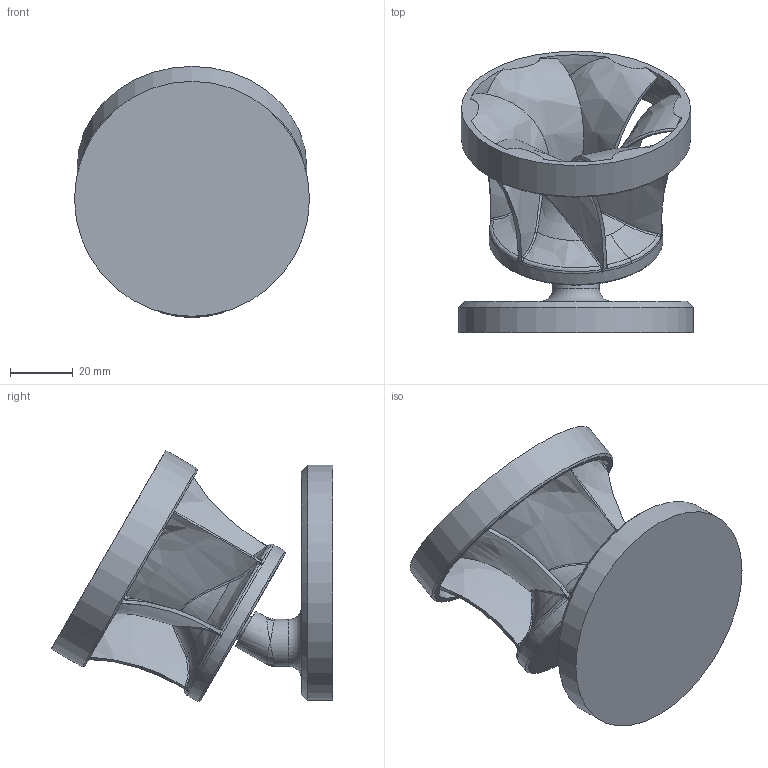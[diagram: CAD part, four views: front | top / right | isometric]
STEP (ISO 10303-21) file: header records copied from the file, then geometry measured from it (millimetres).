
FILE_DESCRIPTION(/* description */ ('','CAx-IF Rec.Pracs.---Representation and Presentation of Product Manufacturing Information (PMI)---4.0---2014-10-13'),/* implementation_level */ '2;1');
FILE_NAME(/* name */ 'Assieme_Francis.stp',/* time_stamp */ '2026-05-17T08:07:52+02:00',/* author */ ('R5800u'),/* organization */ (''),/* preprocessor_version */ 'ST-DEVELOPER v20',/* originating_system */ 'Autodesk Inventor 2025',/* authorisation */ '');
FILE_SCHEMA (('AP242_MANAGED_MODEL_BASED_3D_ENGINEERING_MIM_LF { 1 0 10303 442 1 1 4 }'));
Length unit declared in the file: millimetre
Products named in the file (4): Assieme_Francis; piedistallo_pelton; francis_3; BS 290 SKF - SKF 608-2Z
Assembly tree (3 placements, depth 2):
  Assieme_Francis
    piedistallo_pelton
    francis_3
    BS 290 SKF - SKF 608-2Z
Bounding box: 75 x 89.85 x 80.18 mm (x, y, z)
Volume: 88840.9 mm3; surface area: 43761.3 mm2
Topology: 3 solids, 3 shells, 420 faces, 1275 edges, 860 vertices
Faces by surface type: bspline 217, plane 141, torus 31, cylinder 19, cone 6, sphere 6
Full cylindrical faces by diameter (mm): 8 x2, 12 x1, 12.48 x2, 15 x1, 17.52 x2, 18 x1, 22 x1, 22.1 x1, 55.5 x1, 73.2 x1, 75 x1
Entity records: 33554 total; most frequent: CARTESIAN_POINT 23535, ORIENTED_EDGE 2518, EDGE_CURVE 1259, DIRECTION 1257, VERTEX_POINT 860, B_SPLINE_CURVE_WITH_KNOTS 650, EDGE_LOOP 463, LINE 441
